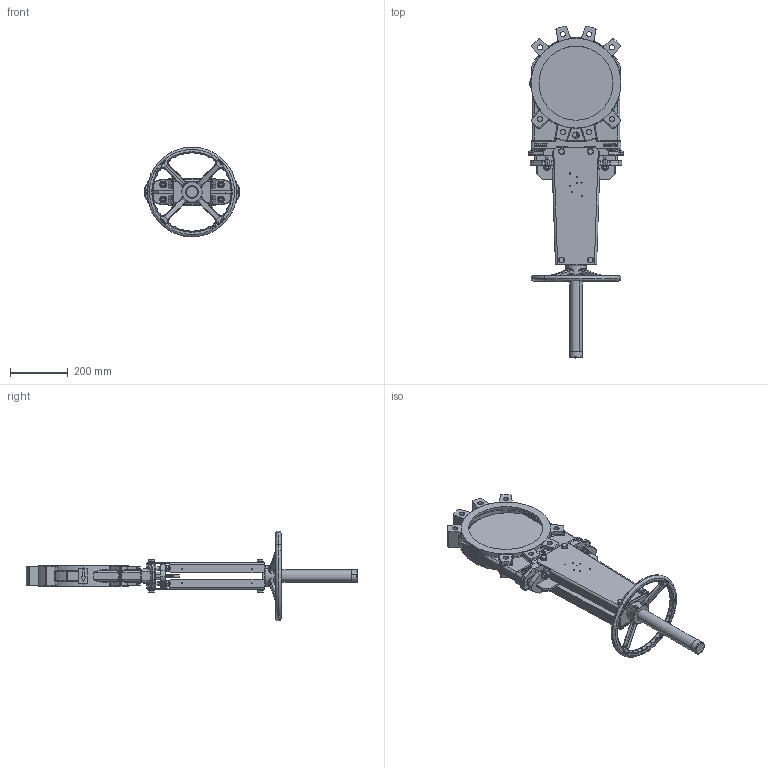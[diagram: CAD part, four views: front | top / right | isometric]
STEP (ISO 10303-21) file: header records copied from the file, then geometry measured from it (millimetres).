
FILE_DESCRIPTION (( 'STEP AP203' ), '1' );
FILE_NAME ('VG4400-00NI0250.STEP', '2024-06-10T07:22:32', ( '' ), ( '' ), 'SwSTEP 2.0', 'SolidWorks 2020', '' );
FILE_SCHEMA (( 'CONFIG_CONTROL_DESIGN' ));
Length unit declared in the file: millimetre
Products named in the file (1): VG4400-00NI0250
Bounding box: 326 x 1147.15 x 309.13 mm (x, y, z)
Surface area: 1182695.8 mm2 (no closed solid volume)
Topology: 0 solids, 105 shells, 1594 faces, 5999 edges, 4277 vertices
Faces by surface type: cylinder 536, plane 518, bspline 297, torus 172, cone 66, sphere 5
Entity records: 96035 total; most frequent: CARTESIAN_POINT 49113, ORIENTED_EDGE 9118, DIRECTION 9100, EDGE_CURVE 5951, VERTEX_POINT 4277, AXIS2_PLACEMENT_3D 3266, LINE 2568, VECTOR 2568
